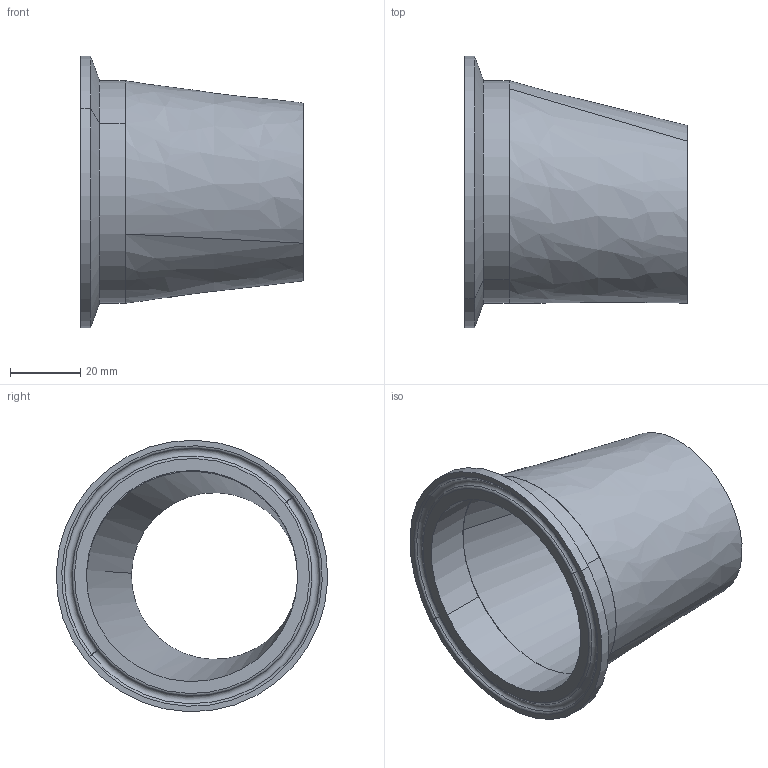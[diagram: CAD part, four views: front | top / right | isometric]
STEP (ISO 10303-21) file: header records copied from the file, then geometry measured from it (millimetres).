
FILE_DESCRIPTION (( 'STEP AP203' ), '1' );
FILE_NAME ('E32CW 2.5X2.0.STEP', '2021-10-18T19:52:48', ( '' ), ( '' ), 'SwSTEP 2.0', 'SolidWorks 2021', '' );
FILE_SCHEMA (( 'CONFIG_CONTROL_DESIGN' ));
Length unit declared in the file: inch
Products named in the file (3): E32WW2.5X2.0; E32CW 2.5X2.0; EG2CS2.5
Assembly tree (2 placements, depth 2):
  E32CW 2.5X2.0
    E32WW2.5X2.0
    EG2CS2.5
Bounding box: 63.5 x 77.35 x 77.35 mm (x, y, z)
Volume: 23350.6 mm3; surface area: 27043 mm2
Topology: 2 solids, 2 shells, 23 faces, 46 edges, 28 vertices
Faces by surface type: cylinder 6, torus 6, plane 5, bspline 4, cone 2
Entity records: 1437 total; most frequent: CARTESIAN_POINT 630, DIRECTION 124, ORIENTED_EDGE 92, AXIS2_PLACEMENT_3D 58, EDGE_CURVE 46, CIRCLE 34, EDGE_LOOP 28, VERTEX_POINT 28
